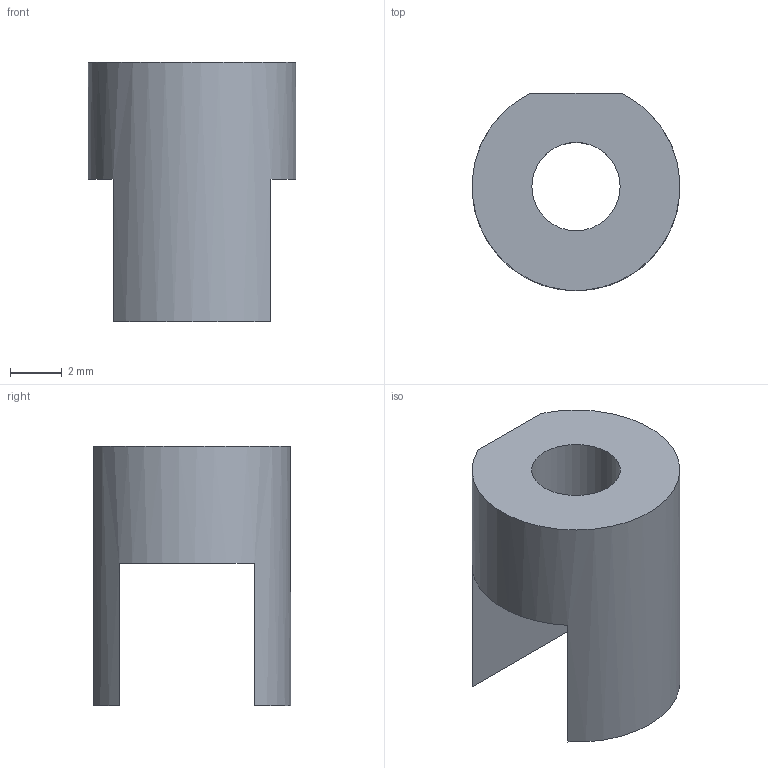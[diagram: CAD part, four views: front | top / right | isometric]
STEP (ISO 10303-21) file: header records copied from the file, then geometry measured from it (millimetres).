
FILE_DESCRIPTION(/* description */ (''),/* implementation_level */ '2;1');
FILE_NAME(/* name */ '20231129_Kugelhahn-Wellenkupplung_Adapter.step',/* time_stamp */ '2023-12-05T15:23:38+01:00',/* author */ (''),/* organization */ (''),/* preprocessor_version */ 'ST-DEVELOPER v20',/* originating_system */ 'Autodesk Translation Framework v12.14.0.127',/* authorisation */ '');
FILE_SCHEMA (('AUTOMOTIVE_DESIGN { 1 0 10303 214 3 1 1 }'));
Length unit declared in the file: millimetre
Products named in the file (1): 20231129_Kugelhahn-Wellenkupplung_Adapter
Bounding box: 7.98 x 7.6 x 10 mm (x, y, z)
Volume: 240.9 mm3; surface area: 383.3 mm2
Topology: 1 solids, 1 shells, 9 faces, 21 edges, 14 vertices
Faces by surface type: plane 7, cylinder 2
Full cylindrical faces by diameter (mm): 3.4 x1
Entity records: 300 total; most frequent: DIRECTION 49, CARTESIAN_POINT 45, ORIENTED_EDGE 42, EDGE_CURVE 21, AXIS2_PLACEMENT_3D 18, VERTEX_POINT 14, LINE 13, VECTOR 13
